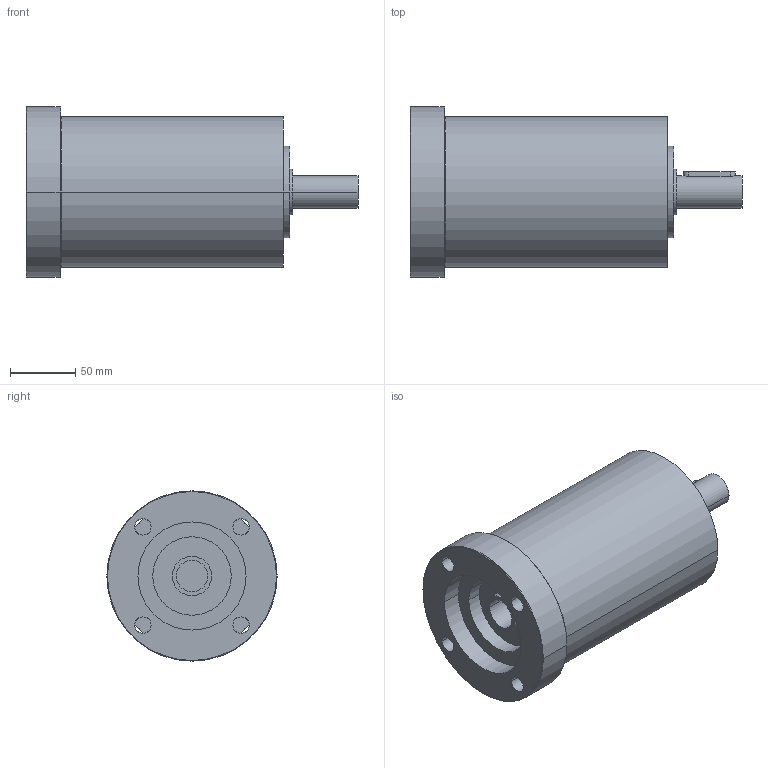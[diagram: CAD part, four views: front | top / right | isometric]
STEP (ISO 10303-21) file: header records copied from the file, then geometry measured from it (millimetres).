
FILE_DESCRIPTION(('CoCreate Modeling STEP Export'),'2;1');
FILE_NAME('GPR125_ig-9-12-16-20-28-35_25_B14_24_P21.stp','2014-08-26T14:11:28',(''),(''),'CoCreate Modeling STEP processor for AP214 (Solid Model)','CoCreate Modeling 16.00C 25-Feb-2009 (C) Parametric Technology GmbH','');
FILE_SCHEMA(('AUTOMOTIVE_DESIGN { 1 0 10303 214 1 1 1 1 }'));
Length unit declared in the file: millimetre
Products named in the file (2): GPR125_ig-9-12-16-20-28-35_25_B14_24_P21
Assembly tree (1 placements, depth 2):
  GPR125_ig-9-12-16-20-28-35_25_B14_24_P21
    GPR125_ig-9-12-16-20-28-35_25_B14_24_P21
Bounding box: 253.5 x 130 x 130 mm (x, y, z)
Volume: 2012818.4 mm3; surface area: 121894 mm2
Topology: 1 solids, 1 shells, 67 faces, 178 edges, 120 vertices
Faces by surface type: cylinder 38, plane 21, cone 8
Entity records: 1774 total; most frequent: ORIENTED_EDGE 352, CARTESIAN_POINT 330, DIRECTION 232, EDGE_CURVE 176, VERTEX_POINT 120, AXIS2_PLACEMENT_3D 90, EDGE_LOOP 84, FACE_OUTER_BOUND 67
